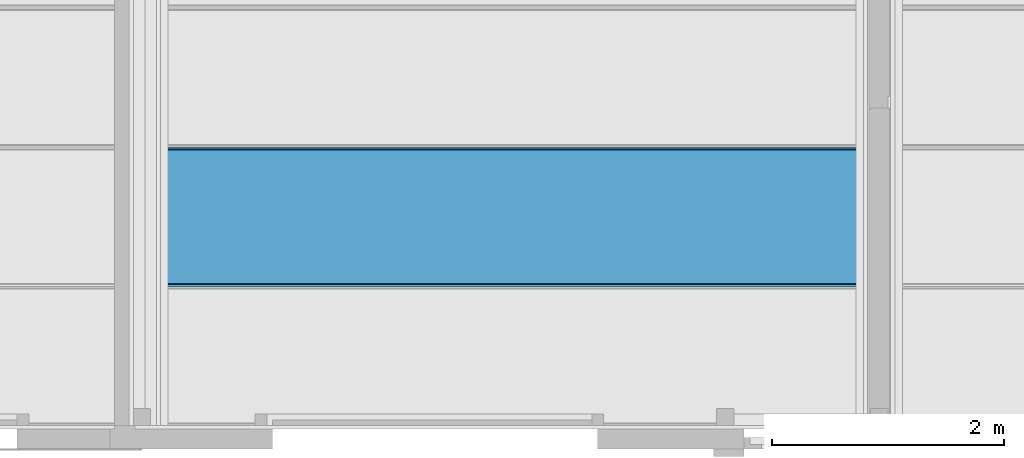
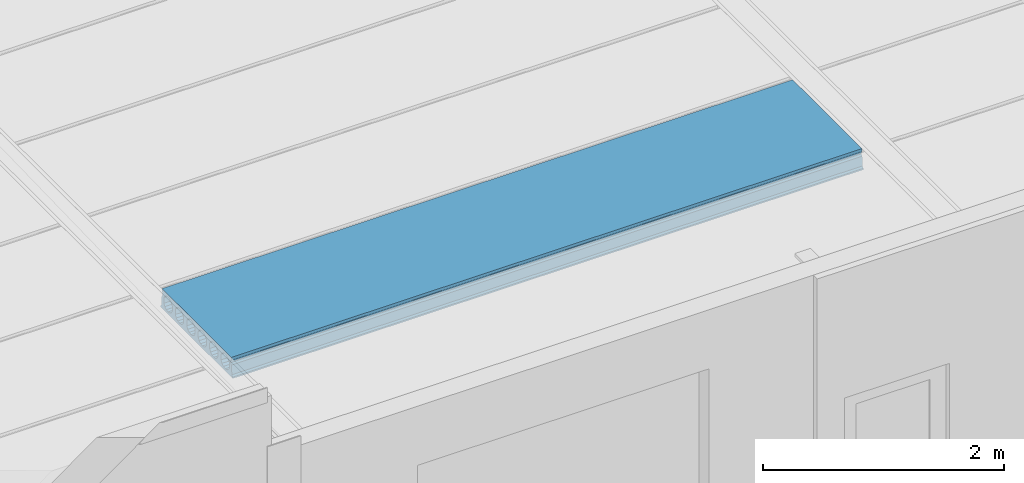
# One storey, part 7 of 45: 1 beam.
"""IFC2X3 building model written with IfcOpenShell, lengths in millimetres."""

from ifc_helpers import new_model, entity, si_unit, converted_unit, frame, origin, place, context, subcontext, project, spatial, faceted_brep, material, element, save


model = new_model("IFC2X3")

# Units and contexts
model_context = context("Model", 3, precision=1e-05, world=origin())
plan_context = context("Plan", 3, precision=1e-05, world=origin())
body_context = subcontext(model_context, "Body", "Model", "MODEL_VIEW")
ifc_project = project(units=[si_unit("LENGTHUNIT", "METRE", prefix="MILLI"), converted_unit("PLANEANGLEUNIT", "DEGREE", entity("IfcPlaneAngleMeasure", 0.0174532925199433), si_unit("PLANEANGLEUNIT", "RADIAN"), dimensions=[0, 0, 0, 0, 0, 0, 0]), si_unit("AREAUNIT", "SQUARE_METRE"), si_unit("VOLUMEUNIT", "CUBIC_METRE")], contexts=[model_context, plan_context])

# Building, storey
building_placement = place(None, origin())
building = spatial("IfcBuilding", under=ifc_project, at=building_placement, Name="HEKF Administrasjonbygg", CompositionType="ELEMENT")
storey_placement = place(building_placement, frame((0.0, 0.0, 6500.0), z_axis=(0.0, 0.0, 1.0), x_axis=(1.0, 0.0, 0.0)))
storey = spatial("IfcBuildingStorey", under=building, at=storey_placement, Name="Plan 1", CompositionType="ELEMENT", Elevation=6500.0)

# Beam
ifc_material = material()
beam_placement = place(storey_placement, frame((0.0, 0.0, -6500.0), z_axis=(0.0, 0.0, 1.0), x_axis=(1.0, 0.0, 0.0)))
element("IfcBeam", 1, at=beam_placement, inside=storey, material=ifc_material, context=body_context, shape_type="Brep", body=[
    faceted_brep([(10135.0, -9599.999999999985, 9684.999999), (10135.0, -9599.999999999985, 9670.0), (16189.99999999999, -9600.0, 9670.000000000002), (16189.99999999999, -9600.0, 9684.999999), (10135.0, -10799.99999999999, 9684.999999), (10135.0, -10799.99999999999, 9670.0), (10135.0, -9599.999999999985, 9670.0), (10135.0, -9599.999999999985, 9684.999999), (10135.0, -9614.99987952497, 9699.999998), (10135.0, -9620.000002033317, 9794.999985), (10135.0, -9635.000003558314, 9809.999985), (10135.0, -9635.000003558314, 9829.999985), (10135.0, -9622.727297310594, 9842.272583), (10135.0, -9624.047732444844, 9870.0), (10135.0, -10775.95237255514, 9870.0), (10135.0, -10777.27272968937, 9842.272735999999), (10135.0, -10765.00000044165, 9829.999985), (10135.0, -10765.00000044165, 9809.999985), (10135.0, -10780.00000196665, 9794.999985), (10135.0, -10784.99999947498, 9699.999998), (10135.0, -10674.99998729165, 9694.999989), (10135.0, -10703.70126120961, 9700.709023), (10135.0, -10728.03302068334, 9716.966995), (10135.0, -10744.29096433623, 9741.298752), (10135.0, -10744.29096033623, 9798.701262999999), (10135.0, -10728.03299768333, 9823.03299), (10135.0, -10703.70124620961, 9839.290955), (10135.0, -10674.99998729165, 9845.0), (10135.0, -10646.29872137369, 9839.290955), (10135.0, -10621.96697689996, 9823.033005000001), (10135.0, -10605.70901024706, 9798.701233), (10135.0, -10605.70898024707, 9741.298767), (10135.0, -10621.96696189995, 9716.966995), (10135.0, -10646.29870537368, 9700.709023), (10135.0, -10484.99996797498, 9694.999989), (10135.0, -10513.70124189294, 9700.709023), (10135.0, -10538.03300136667, 9716.966995), (10135.0, -10554.29094501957, 9741.298752), (10135.0, -10554.29094101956, 9798.701262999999), (10135.0, -10538.03297836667, 9823.03299), (10135.0, -10513.70122689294, 9839.290955), (10135.0, -10484.99996797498, 9845.0), (10135.0, -10456.29870205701, 9839.290955), (10135.0, -10431.9669575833, 9823.033005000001), (10135.0, -10415.7089909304, 9798.701233), (10135.0, -10415.7089609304, 9741.298767), (10135.0, -10431.96694258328, 9716.966995), (10135.0, -10456.29868605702, 9700.709023), (10135.0, -10294.99994865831, 9694.999989), (10135.0, -10323.70122257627, 9700.709023), (10135.0, -10348.03298205, 9716.966995), (10135.0, -10364.2909257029, 9741.298752), (10135.0, -10364.29092170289, 9798.701262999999), (10135.0, -10348.03295905, 9823.03299), (10135.0, -10323.70120757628, 9839.290955), (10135.0, -10294.99994865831, 9845.0), (10135.0, -10266.29868274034, 9839.290955), (10135.0, -10241.96693826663, 9823.033005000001), (10135.0, -10225.70897161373, 9798.701233), (10135.0, -10225.70894161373, 9741.298767), (10135.0, -10241.96692326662, 9716.966995), (10135.0, -10266.29866674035, 9700.709023), (10135.0, -10104.99992934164, 9694.999989), (10135.0, -10133.7012032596, 9700.709023), (10135.0, -10158.03296273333, 9716.966995), (10135.0, -10174.29090638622, 9741.298752), (10135.0, -10174.29090238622, 9798.701262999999), (10135.0, -10158.03293973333, 9823.03299), (10135.0, -10133.70118825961, 9839.290955), (10135.0, -10104.99992934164, 9845.0), (10135.0, -10076.29866342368, 9839.290955), (10135.0, -10051.96691894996, 9823.033005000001), (10135.0, -10035.70895229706, 9798.701233), (10135.0, -10035.70892229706, 9741.298767), (10135.0, -10051.96690394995, 9716.966995), (10135.0, -10076.29864742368, 9700.709023), (10135.0, -9914.999910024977, 9694.999989), (10135.0, -9943.701183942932, 9700.709023), (10135.0, -9968.032943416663, 9716.966995), (10135.0, -9984.290887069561, 9741.298752), (10135.0, -9984.29088306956, 9798.701262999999), (10135.0, -9968.032920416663, 9823.03299), (10135.0, -9943.701168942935, 9839.290955), (10135.0, -9914.999910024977, 9845.0), (10135.0, -9886.29864410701, 9839.290955), (10135.0, -9861.966899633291, 9823.033005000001), (10135.0, -9845.708932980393, 9798.701233), (10135.0, -9845.70890298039, 9741.298767), (10135.0, -9861.966884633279, 9716.966995), (10135.0, -9886.298628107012, 9700.709023), (10135.0, -9724.999890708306, 9694.999989), (10135.0, -9753.701164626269, 9700.709023), (10135.0, -9778.032924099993, 9716.966995), (10135.0, -9794.29086775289, 9741.298752), (10135.0, -9794.290863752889, 9798.701262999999), (10135.0, -9778.032901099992, 9823.03299), (10135.0, -9753.701149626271, 9839.290955), (10135.0, -9724.999890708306, 9845.0), (10135.0, -9696.298624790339, 9839.290955), (10135.0, -9671.96688031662, 9823.033005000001), (10135.0, -9655.708913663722, 9798.701233), (10135.0, -9655.708883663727, 9741.298767), (10135.0, -9671.966865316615, 9716.966995), (10135.0, -9696.298608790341, 9700.709023), (16190.0, -10800.0, 9684.999999), (16190.0, -10800.0, 9670.0), (10135.0, -10799.99999999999, 9670.0), (10135.0, -10799.99999999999, 9684.999999), (16189.99999999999, -9600.0, 9684.999999), (16189.99999999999, -9600.0, 9670.000000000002), (16190.0, -10800.0, 9670.0), (16190.0, -10800.0, 9684.999999), (16190.0, -10784.999999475, 9699.999998), (16190.0, -10780.00000196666, 9794.999985), (16190.0, -10765.00000044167, 9809.999985), (16190.0, -10765.00000044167, 9829.999985), (16190.0, -10777.27272968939, 9842.272735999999), (16190.0, -10775.95237255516, 9870.0), (16190.0, -9624.047732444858, 9870.0), (16190.0, -9622.727297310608, 9842.272583), (16190.0, -9635.000003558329, 9829.999985), (16190.0, -9635.000003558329, 9809.999985), (16190.0, -9620.000002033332, 9794.999985), (16190.0, -9614.999879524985, 9699.999998), (16190.0, -9724.99989070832, 9694.999989), (16190.0, -9696.298608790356, 9700.709023), (16190.0, -9671.96686531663, 9716.966995), (16190.0, -9655.708883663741, 9741.298767), (16190.0, -9655.708913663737, 9798.701233), (16190.0, -9671.966880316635, 9823.033005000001), (16190.0, -9696.298624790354, 9839.290955), (16190.0, -9724.99989070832, 9845.0), (16190.0, -9753.701149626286, 9839.290955), (16190.0, -9778.032901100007, 9823.03299), (16190.0, -9794.290863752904, 9798.701262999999), (16190.0, -9794.290867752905, 9741.298752), (16190.0, -9778.032924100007, 9716.966995), (16190.0, -9753.701164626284, 9700.709023), (16190.0, -9914.999910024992, 9694.999989), (16190.0, -9886.298628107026, 9700.709023), (16190.0, -9861.966884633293, 9716.966995), (16190.0, -9845.708902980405, 9741.298767), (16190.0, -9845.708932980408, 9798.701233), (16190.0, -9861.966899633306, 9823.033005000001), (16190.0, -9886.298644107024, 9839.290955), (16190.0, -9914.999910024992, 9845.0), (16190.0, -9943.70116894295, 9839.290955), (16190.0, -9968.032920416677, 9823.03299), (16190.0, -9984.290883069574, 9798.701262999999), (16190.0, -9984.290887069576, 9741.298752), (16190.0, -9968.032943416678, 9716.966995), (16190.0, -9943.701183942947, 9700.709023), (16190.0, -10104.99992934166, 9694.999989), (16190.0, -10076.29864742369, 9700.709023), (16190.0, -10051.96690394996, 9716.966995), (16190.0, -10035.70892229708, 9741.298767), (16190.0, -10035.70895229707, 9798.701233), (16190.0, -10051.96691894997, 9823.033005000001), (16190.0, -10076.2986634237, 9839.290955), (16190.0, -10104.99992934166, 9845.0), (16190.0, -10133.70118825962, 9839.290955), (16190.0, -10158.03293973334, 9823.03299), (16190.0, -10174.29090238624, 9798.701262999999), (16190.0, -10174.29090638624, 9741.298752), (16190.0, -10158.03296273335, 9716.966995), (16190.0, -10133.70120325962, 9700.709023), (16190.0, -10294.99994865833, 9694.999989), (16190.0, -10266.29866674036, 9700.709023), (16190.0, -10241.96692326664, 9716.966995), (16190.0, -10225.70894161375, 9741.298767), (16190.0, -10225.70897161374, 9798.701233), (16190.0, -10241.96693826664, 9823.033005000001), (16190.0, -10266.29868274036, 9839.290955), (16190.0, -10294.99994865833, 9845.0), (16190.0, -10323.70120757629, 9839.290955), (16190.0, -10348.03295905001, 9823.03299), (16190.0, -10364.29092170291, 9798.701262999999), (16190.0, -10364.29092570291, 9741.298752), (16190.0, -10348.03298205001, 9716.966995), (16190.0, -10323.70122257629, 9700.709023), (16190.0, -10484.999967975, 9694.999989), (16190.0, -10456.29868605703, 9700.709023), (16190.0, -10431.9669425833, 9716.966995), (16190.0, -10415.70896093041, 9741.298767), (16190.0, -10415.70899093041, 9798.701233), (16190.0, -10431.96695758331, 9823.033005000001), (16190.0, -10456.29870205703, 9839.290955), (16190.0, -10484.999967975, 9845.0), (16190.0, -10513.70122689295, 9839.290955), (16190.0, -10538.03297836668, 9823.03299), (16190.0, -10554.29094101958, 9798.701262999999), (16190.0, -10554.29094501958, 9741.298752), (16190.0, -10538.03300136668, 9716.966995), (16190.0, -10513.70124189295, 9700.709023), (16190.0, -10674.99998729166, 9694.999989), (16190.0, -10646.29870537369, 9700.709023), (16190.0, -10621.96696189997, 9716.966995), (16190.0, -10605.70898024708, 9741.298767), (16190.0, -10605.70901024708, 9798.701233), (16190.0, -10621.96697689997, 9823.033005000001), (16190.0, -10646.2987213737, 9839.290955), (16190.0, -10674.99998729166, 9845.0), (16190.0, -10703.70124620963, 9839.290955), (16190.0, -10728.03299768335, 9823.03299), (16190.0, -10744.29096033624, 9798.701262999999), (16190.0, -10744.29096433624, 9741.298752), (16190.0, -10728.03302068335, 9716.966995), (16190.0, -10703.70126120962, 9700.709023), (10135.0, -10799.99999999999, 9684.999999), (10135.0, -10784.99999947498, 9699.999998), (16190.0, -10784.999999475, 9699.999998), (16190.0, -10800.0, 9684.999999), (10135.0, -10784.99999947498, 9699.999998), (10135.0, -10780.00000196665, 9794.999985), (16190.0, -10780.00000196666, 9794.999985), (16190.0, -10784.999999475, 9699.999998), (10135.0, -10780.00000196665, 9794.999985), (10135.0, -10765.00000044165, 9809.999985), (16190.0, -10765.00000044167, 9809.999985), (16190.0, -10780.00000196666, 9794.999985), (10135.0, -10765.00000044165, 9809.999985), (10135.0, -10765.00000044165, 9829.999985), (16190.0, -10765.00000044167, 9829.999985), (16190.0, -10765.00000044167, 9809.999985), (10135.0, -10765.00000044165, 9829.999985), (10135.0, -10777.27272968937, 9842.272735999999), (16190.0, -10777.27272968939, 9842.272735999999), (16190.0, -10765.00000044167, 9829.999985), (10135.0, -10777.27272968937, 9842.272735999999), (10135.0, -10775.95237255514, 9870.0), (16190.0, -10775.95237255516, 9870.0), (16190.0, -10777.27272968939, 9842.272735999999), (10135.0, -10775.95237255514, 9870.0), (10135.0, -9624.047732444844, 9870.0), (16190.0, -9624.047732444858, 9870.0), (16190.0, -10775.95237255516, 9870.0), (10135.0, -9624.047732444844, 9870.0), (10135.0, -9622.727297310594, 9842.272583), (16190.0, -9622.727297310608, 9842.272583), (16190.0, -9624.047732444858, 9870.0), (10135.0, -9622.727297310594, 9842.272583), (10135.0, -9635.000003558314, 9829.999985), (16190.0, -9635.000003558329, 9829.999985), (16190.0, -9622.727297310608, 9842.272583), (10135.0, -9635.000003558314, 9829.999985), (10135.0, -9635.000003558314, 9809.999985), (16190.0, -9635.000003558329, 9809.999985), (16190.0, -9635.000003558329, 9829.999985), (10135.0, -9635.000003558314, 9809.999985), (10135.0, -9620.000002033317, 9794.999985), (16190.0, -9620.000002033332, 9794.999985), (16190.0, -9635.000003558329, 9809.999985), (10135.0, -9620.000002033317, 9794.999985), (10135.0, -9614.99987952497, 9699.999998), (16190.0, -9614.999879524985, 9699.999998), (16190.0, -9620.000002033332, 9794.999985), (10135.0, -9614.99987952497, 9699.999998), (10135.0, -9599.999999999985, 9684.999999), (16189.99999999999, -9600.0, 9684.999999), (16190.0, -9614.999879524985, 9699.999998), (10135.0, -9599.999999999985, 9670.0), (10135.0, -10799.99999999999, 9670.0), (16190.0, -10800.0, 9670.0), (16189.99999999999, -9600.0, 9670.000000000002), (10135.0, -9724.999890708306, 9694.999989), (10135.0, -9696.298608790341, 9700.709023), (16190.0, -9696.298608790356, 9700.709023), (16190.0, -9724.99989070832, 9694.999989), (10135.0, -9696.298608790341, 9700.709023), (10135.0, -9671.966865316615, 9716.966995), (16190.0, -9671.96686531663, 9716.966995), (16190.0, -9696.298608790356, 9700.709023), (10135.0, -9671.966865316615, 9716.966995), (10135.0, -9655.708883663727, 9741.298767), (16190.0, -9655.708883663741, 9741.298767), (16190.0, -9671.96686531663, 9716.966995), (10135.0, -9655.708883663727, 9741.298767), (10135.0, -9655.708913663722, 9798.701233), (16190.0, -9655.708913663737, 9798.701233), (16190.0, -9655.708883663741, 9741.298767), (10135.0, -9655.708913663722, 9798.701233), (10135.0, -9671.96688031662, 9823.033005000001), (16190.0, -9671.966880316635, 9823.033005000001), (16190.0, -9655.708913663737, 9798.701233), (10135.0, -9671.96688031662, 9823.033005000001), (10135.0, -9696.298624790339, 9839.290955), (16190.0, -9696.298624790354, 9839.290955), (16190.0, -9671.966880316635, 9823.033005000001), (10135.0, -9696.298624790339, 9839.290955), (10135.0, -9724.999890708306, 9845.0), (16190.0, -9724.99989070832, 9845.0), (16190.0, -9696.298624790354, 9839.290955), (10135.0, -9724.999890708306, 9845.0), (10135.0, -9753.701149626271, 9839.290955), (16190.0, -9753.701149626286, 9839.290955), (16190.0, -9724.99989070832, 9845.0), (10135.0, -9753.701149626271, 9839.290955), (10135.0, -9778.032901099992, 9823.03299), (16190.0, -9778.032901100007, 9823.03299), (16190.0, -9753.701149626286, 9839.290955), (10135.0, -9778.032901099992, 9823.03299), (10135.0, -9794.290863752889, 9798.701262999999), (16190.0, -9794.290863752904, 9798.701262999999), (16190.0, -9778.032901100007, 9823.03299), (10135.0, -9794.290863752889, 9798.701262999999), (10135.0, -9794.29086775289, 9741.298752), (16190.0, -9794.290867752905, 9741.298752), (16190.0, -9794.290863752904, 9798.701262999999), (10135.0, -9794.29086775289, 9741.298752), (10135.0, -9778.032924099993, 9716.966995), (16190.0, -9778.032924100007, 9716.966995), (16190.0, -9794.290867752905, 9741.298752), (10135.0, -9778.032924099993, 9716.966995), (10135.0, -9753.701164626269, 9700.709023), (16190.0, -9753.701164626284, 9700.709023), (16190.0, -9778.032924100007, 9716.966995), (10135.0, -9753.701164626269, 9700.709023), (10135.0, -9724.999890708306, 9694.999989), (16190.0, -9724.99989070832, 9694.999989), (16190.0, -9753.701164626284, 9700.709023), (10135.0, -9914.999910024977, 9694.999989), (10135.0, -9886.298628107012, 9700.709023), (16190.0, -9886.298628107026, 9700.709023), (16190.0, -9914.999910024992, 9694.999989), (10135.0, -9886.298628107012, 9700.709023), (10135.0, -9861.966884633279, 9716.966995), (16190.0, -9861.966884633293, 9716.966995), (16190.0, -9886.298628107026, 9700.709023), (10135.0, -9861.966884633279, 9716.966995), (10135.0, -9845.70890298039, 9741.298767), (16190.0, -9845.708902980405, 9741.298767), (16190.0, -9861.966884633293, 9716.966995), (10135.0, -9845.70890298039, 9741.298767), (10135.0, -9845.708932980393, 9798.701233), (16190.0, -9845.708932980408, 9798.701233), (16190.0, -9845.708902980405, 9741.298767), (10135.0, -9845.708932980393, 9798.701233), (10135.0, -9861.966899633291, 9823.033005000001), (16190.0, -9861.966899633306, 9823.033005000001), (16190.0, -9845.708932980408, 9798.701233), (10135.0, -9861.966899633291, 9823.033005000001), (10135.0, -9886.29864410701, 9839.290955), (16190.0, -9886.298644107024, 9839.290955), (16190.0, -9861.966899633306, 9823.033005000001), (10135.0, -9886.29864410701, 9839.290955), (10135.0, -9914.999910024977, 9845.0), (16190.0, -9914.999910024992, 9845.0), (16190.0, -9886.298644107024, 9839.290955), (10135.0, -9914.999910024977, 9845.0), (10135.0, -9943.701168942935, 9839.290955), (16190.0, -9943.70116894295, 9839.290955), (16190.0, -9914.999910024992, 9845.0), (10135.0, -9943.701168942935, 9839.290955), (10135.0, -9968.032920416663, 9823.03299), (16190.0, -9968.032920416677, 9823.03299), (16190.0, -9943.70116894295, 9839.290955), (10135.0, -9968.032920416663, 9823.03299), (10135.0, -9984.29088306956, 9798.701262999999), (16190.0, -9984.290883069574, 9798.701262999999), (16190.0, -9968.032920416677, 9823.03299), (10135.0, -9984.29088306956, 9798.701262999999), (10135.0, -9984.290887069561, 9741.298752), (16190.0, -9984.290887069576, 9741.298752), (16190.0, -9984.290883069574, 9798.701262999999), (10135.0, -9984.290887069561, 9741.298752), (10135.0, -9968.032943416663, 9716.966995), (16190.0, -9968.032943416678, 9716.966995), (16190.0, -9984.290887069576, 9741.298752), (10135.0, -9968.032943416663, 9716.966995), (10135.0, -9943.701183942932, 9700.709023), (16190.0, -9943.701183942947, 9700.709023), (16190.0, -9968.032943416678, 9716.966995), (10135.0, -9943.701183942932, 9700.709023), (10135.0, -9914.999910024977, 9694.999989), (16190.0, -9914.999910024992, 9694.999989), (16190.0, -9943.701183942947, 9700.709023), (10135.0, -10104.99992934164, 9694.999989), (10135.0, -10076.29864742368, 9700.709023), (16190.0, -10076.29864742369, 9700.709023), (16190.0, -10104.99992934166, 9694.999989), (10135.0, -10076.29864742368, 9700.709023), (10135.0, -10051.96690394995, 9716.966995), (16190.0, -10051.96690394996, 9716.966995), (16190.0, -10076.29864742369, 9700.709023), (10135.0, -10051.96690394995, 9716.966995), (10135.0, -10035.70892229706, 9741.298767), (16190.0, -10035.70892229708, 9741.298767), (16190.0, -10051.96690394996, 9716.966995), (10135.0, -10035.70892229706, 9741.298767), (10135.0, -10035.70895229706, 9798.701233), (16190.0, -10035.70895229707, 9798.701233), (16190.0, -10035.70892229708, 9741.298767), (10135.0, -10035.70895229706, 9798.701233), (10135.0, -10051.96691894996, 9823.033005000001), (16190.0, -10051.96691894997, 9823.033005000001), (16190.0, -10035.70895229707, 9798.701233), (10135.0, -10051.96691894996, 9823.033005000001), (10135.0, -10076.29866342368, 9839.290955), (16190.0, -10076.2986634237, 9839.290955), (16190.0, -10051.96691894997, 9823.033005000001), (10135.0, -10076.29866342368, 9839.290955), (10135.0, -10104.99992934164, 9845.0), (16190.0, -10104.99992934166, 9845.0), (16190.0, -10076.2986634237, 9839.290955), (10135.0, -10104.99992934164, 9845.0), (10135.0, -10133.70118825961, 9839.290955), (16190.0, -10133.70118825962, 9839.290955), (16190.0, -10104.99992934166, 9845.0), (10135.0, -10133.70118825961, 9839.290955), (10135.0, -10158.03293973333, 9823.03299), (16190.0, -10158.03293973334, 9823.03299), (16190.0, -10133.70118825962, 9839.290955), (10135.0, -10158.03293973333, 9823.03299), (10135.0, -10174.29090238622, 9798.701262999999), (16190.0, -10174.29090238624, 9798.701262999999), (16190.0, -10158.03293973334, 9823.03299), (10135.0, -10174.29090238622, 9798.701262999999), (10135.0, -10174.29090638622, 9741.298752), (16190.0, -10174.29090638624, 9741.298752), (16190.0, -10174.29090238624, 9798.701262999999), (10135.0, -10174.29090638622, 9741.298752), (10135.0, -10158.03296273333, 9716.966995), (16190.0, -10158.03296273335, 9716.966995), (16190.0, -10174.29090638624, 9741.298752), (10135.0, -10158.03296273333, 9716.966995), (10135.0, -10133.7012032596, 9700.709023), (16190.0, -10133.70120325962, 9700.709023), (16190.0, -10158.03296273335, 9716.966995), (10135.0, -10133.7012032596, 9700.709023), (10135.0, -10104.99992934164, 9694.999989), (16190.0, -10104.99992934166, 9694.999989), (16190.0, -10133.70120325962, 9700.709023), (10135.0, -10294.99994865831, 9694.999989), (10135.0, -10266.29866674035, 9700.709023), (16190.0, -10266.29866674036, 9700.709023), (16190.0, -10294.99994865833, 9694.999989), (10135.0, -10266.29866674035, 9700.709023), (10135.0, -10241.96692326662, 9716.966995), (16190.0, -10241.96692326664, 9716.966995), (16190.0, -10266.29866674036, 9700.709023), (10135.0, -10241.96692326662, 9716.966995), (10135.0, -10225.70894161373, 9741.298767), (16190.0, -10225.70894161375, 9741.298767), (16190.0, -10241.96692326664, 9716.966995), (10135.0, -10225.70894161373, 9741.298767), (10135.0, -10225.70897161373, 9798.701233), (16190.0, -10225.70897161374, 9798.701233), (16190.0, -10225.70894161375, 9741.298767), (10135.0, -10225.70897161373, 9798.701233), (10135.0, -10241.96693826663, 9823.033005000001), (16190.0, -10241.96693826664, 9823.033005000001), (16190.0, -10225.70897161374, 9798.701233), (10135.0, -10241.96693826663, 9823.033005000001), (10135.0, -10266.29868274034, 9839.290955), (16190.0, -10266.29868274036, 9839.290955), (16190.0, -10241.96693826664, 9823.033005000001), (10135.0, -10266.29868274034, 9839.290955), (10135.0, -10294.99994865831, 9845.0), (16190.0, -10294.99994865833, 9845.0), (16190.0, -10266.29868274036, 9839.290955), (10135.0, -10294.99994865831, 9845.0), (10135.0, -10323.70120757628, 9839.290955), (16190.0, -10323.70120757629, 9839.290955), (16190.0, -10294.99994865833, 9845.0), (10135.0, -10323.70120757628, 9839.290955), (10135.0, -10348.03295905, 9823.03299), (16190.0, -10348.03295905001, 9823.03299), (16190.0, -10323.70120757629, 9839.290955), (10135.0, -10348.03295905, 9823.03299), (10135.0, -10364.29092170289, 9798.701262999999), (16190.0, -10364.29092170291, 9798.701262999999), (16190.0, -10348.03295905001, 9823.03299), (10135.0, -10364.29092170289, 9798.701262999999), (10135.0, -10364.2909257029, 9741.298752), (16190.0, -10364.29092570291, 9741.298752), (16190.0, -10364.29092170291, 9798.701262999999), (10135.0, -10364.2909257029, 9741.298752), (10135.0, -10348.03298205, 9716.966995), (16190.0, -10348.03298205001, 9716.966995), (16190.0, -10364.29092570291, 9741.298752), (10135.0, -10348.03298205, 9716.966995), (10135.0, -10323.70122257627, 9700.709023), (16190.0, -10323.70122257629, 9700.709023), (16190.0, -10348.03298205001, 9716.966995), (10135.0, -10323.70122257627, 9700.709023), (10135.0, -10294.99994865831, 9694.999989), (16190.0, -10294.99994865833, 9694.999989), (16190.0, -10323.70122257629, 9700.709023), (10135.0, -10484.99996797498, 9694.999989), (10135.0, -10456.29868605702, 9700.709023), (16190.0, -10456.29868605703, 9700.709023), (16190.0, -10484.999967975, 9694.999989), (10135.0, -10456.29868605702, 9700.709023), (10135.0, -10431.96694258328, 9716.966995), (16190.0, -10431.9669425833, 9716.966995), (16190.0, -10456.29868605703, 9700.709023), (10135.0, -10431.96694258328, 9716.966995), (10135.0, -10415.7089609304, 9741.298767), (16190.0, -10415.70896093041, 9741.298767), (16190.0, -10431.9669425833, 9716.966995), (10135.0, -10415.7089609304, 9741.298767), (10135.0, -10415.7089909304, 9798.701233), (16190.0, -10415.70899093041, 9798.701233), (16190.0, -10415.70896093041, 9741.298767), (10135.0, -10415.7089909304, 9798.701233), (10135.0, -10431.9669575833, 9823.033005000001), (16190.0, -10431.96695758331, 9823.033005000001), (16190.0, -10415.70899093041, 9798.701233), (10135.0, -10431.9669575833, 9823.033005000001), (10135.0, -10456.29870205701, 9839.290955), (16190.0, -10456.29870205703, 9839.290955), (16190.0, -10431.96695758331, 9823.033005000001), (10135.0, -10456.29870205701, 9839.290955), (10135.0, -10484.99996797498, 9845.0), (16190.0, -10484.999967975, 9845.0), (16190.0, -10456.29870205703, 9839.290955), (10135.0, -10484.99996797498, 9845.0), (10135.0, -10513.70122689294, 9839.290955), (16190.0, -10513.70122689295, 9839.290955), (16190.0, -10484.999967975, 9845.0), (10135.0, -10513.70122689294, 9839.290955), (10135.0, -10538.03297836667, 9823.03299), (16190.0, -10538.03297836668, 9823.03299), (16190.0, -10513.70122689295, 9839.290955), (10135.0, -10538.03297836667, 9823.03299), (10135.0, -10554.29094101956, 9798.701262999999), (16190.0, -10554.29094101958, 9798.701262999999), (16190.0, -10538.03297836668, 9823.03299), (10135.0, -10554.29094101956, 9798.701262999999), (10135.0, -10554.29094501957, 9741.298752), (16190.0, -10554.29094501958, 9741.298752), (16190.0, -10554.29094101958, 9798.701262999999), (10135.0, -10554.29094501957, 9741.298752), (10135.0, -10538.03300136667, 9716.966995), (16190.0, -10538.03300136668, 9716.966995), (16190.0, -10554.29094501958, 9741.298752), (10135.0, -10538.03300136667, 9716.966995), (10135.0, -10513.70124189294, 9700.709023), (16190.0, -10513.70124189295, 9700.709023), (16190.0, -10538.03300136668, 9716.966995), (10135.0, -10513.70124189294, 9700.709023), (10135.0, -10484.99996797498, 9694.999989), (16190.0, -10484.999967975, 9694.999989), (16190.0, -10513.70124189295, 9700.709023), (10135.0, -10674.99998729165, 9694.999989), (10135.0, -10646.29870537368, 9700.709023), (16190.0, -10646.29870537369, 9700.709023), (16190.0, -10674.99998729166, 9694.999989), (10135.0, -10646.29870537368, 9700.709023), (10135.0, -10621.96696189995, 9716.966995), (16190.0, -10621.96696189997, 9716.966995), (16190.0, -10646.29870537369, 9700.709023), (10135.0, -10621.96696189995, 9716.966995), (10135.0, -10605.70898024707, 9741.298767), (16190.0, -10605.70898024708, 9741.298767), (16190.0, -10621.96696189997, 9716.966995), (10135.0, -10605.70898024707, 9741.298767), (10135.0, -10605.70901024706, 9798.701233), (16190.0, -10605.70901024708, 9798.701233), (16190.0, -10605.70898024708, 9741.298767), (10135.0, -10605.70901024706, 9798.701233), (10135.0, -10621.96697689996, 9823.033005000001), (16190.0, -10621.96697689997, 9823.033005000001), (16190.0, -10605.70901024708, 9798.701233), (10135.0, -10621.96697689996, 9823.033005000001), (10135.0, -10646.29872137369, 9839.290955), (16190.0, -10646.2987213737, 9839.290955), (16190.0, -10621.96697689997, 9823.033005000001), (10135.0, -10646.29872137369, 9839.290955), (10135.0, -10674.99998729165, 9845.0), (16190.0, -10674.99998729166, 9845.0), (16190.0, -10646.2987213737, 9839.290955), (10135.0, -10674.99998729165, 9845.0), (10135.0, -10703.70124620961, 9839.290955), (16190.0, -10703.70124620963, 9839.290955), (16190.0, -10674.99998729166, 9845.0), (10135.0, -10703.70124620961, 9839.290955), (10135.0, -10728.03299768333, 9823.03299), (16190.0, -10728.03299768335, 9823.03299), (16190.0, -10703.70124620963, 9839.290955), (10135.0, -10728.03299768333, 9823.03299), (10135.0, -10744.29096033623, 9798.701262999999), (16190.0, -10744.29096033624, 9798.701262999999), (16190.0, -10728.03299768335, 9823.03299), (10135.0, -10744.29096033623, 9798.701262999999), (10135.0, -10744.29096433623, 9741.298752), (16190.0, -10744.29096433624, 9741.298752), (16190.0, -10744.29096033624, 9798.701262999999), (10135.0, -10744.29096433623, 9741.298752), (10135.0, -10728.03302068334, 9716.966995), (16190.0, -10728.03302068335, 9716.966995), (16190.0, -10744.29096433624, 9741.298752), (10135.0, -10728.03302068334, 9716.966995), (10135.0, -10703.70126120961, 9700.709023), (16190.0, -10703.70126120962, 9700.709023), (16190.0, -10728.03302068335, 9716.966995), (10135.0, -10703.70126120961, 9700.709023), (10135.0, -10674.99998729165, 9694.999989), (16190.0, -10674.99998729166, 9694.999989), (16190.0, -10703.70126120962, 9700.709023)], [[[0, 1, 2, 3]], [[4, 5, 6, 7, 8, 9, 10, 11, 12, 13, 14, 15, 16, 17, 18, 19], [20, 21, 22, 23, 24, 25, 26, 27, 28, 29, 30, 31, 32, 33], [34, 35, 36, 37, 38, 39, 40, 41, 42, 43, 44, 45, 46, 47], [48, 49, 50, 51, 52, 53, 54, 55, 56, 57, 58, 59, 60, 61], [62, 63, 64, 65, 66, 67, 68, 69, 70, 71, 72, 73, 74, 75], [76, 77, 78, 79, 80, 81, 82, 83, 84, 85, 86, 87, 88, 89], [90, 91, 92, 93, 94, 95, 96, 97, 98, 99, 100, 101, 102, 103]], [[104, 105, 106, 107]], [[108, 109, 110, 111, 112, 113, 114, 115, 116, 117, 118, 119, 120, 121, 122, 123], [124, 125, 126, 127, 128, 129, 130, 131, 132, 133, 134, 135, 136, 137], [138, 139, 140, 141, 142, 143, 144, 145, 146, 147, 148, 149, 150, 151], [152, 153, 154, 155, 156, 157, 158, 159, 160, 161, 162, 163, 164, 165], [166, 167, 168, 169, 170, 171, 172, 173, 174, 175, 176, 177, 178, 179], [180, 181, 182, 183, 184, 185, 186, 187, 188, 189, 190, 191, 192, 193], [194, 195, 196, 197, 198, 199, 200, 201, 202, 203, 204, 205, 206, 207]], [[208, 209, 210, 211]], [[212, 213, 214, 215]], [[216, 217, 218, 219]], [[220, 221, 222, 223]], [[224, 225, 226, 227]], [[228, 229, 230, 231]], [[232, 233, 234, 235]], [[236, 237, 238, 239]], [[240, 241, 242, 243]], [[244, 245, 246, 247]], [[248, 249, 250, 251]], [[252, 253, 254, 255]], [[256, 257, 258, 259]], [[260, 261, 262, 263]], [[264, 265, 266, 267]], [[268, 269, 270, 271]], [[272, 273, 274, 275]], [[276, 277, 278, 279]], [[280, 281, 282, 283]], [[284, 285, 286, 287]], [[288, 289, 290, 291]], [[292, 293, 294, 295]], [[296, 297, 298, 299]], [[300, 301, 302, 303]], [[304, 305, 306, 307]], [[308, 309, 310, 311]], [[312, 313, 314, 315]], [[316, 317, 318, 319]], [[320, 321, 322, 323]], [[324, 325, 326, 327]], [[328, 329, 330, 331]], [[332, 333, 334, 335]], [[336, 337, 338, 339]], [[340, 341, 342, 343]], [[344, 345, 346, 347]], [[348, 349, 350, 351]], [[352, 353, 354, 355]], [[356, 357, 358, 359]], [[360, 361, 362, 363]], [[364, 365, 366, 367]], [[368, 369, 370, 371]], [[372, 373, 374, 375]], [[376, 377, 378, 379]], [[380, 381, 382, 383]], [[384, 385, 386, 387]], [[388, 389, 390, 391]], [[392, 393, 394, 395]], [[396, 397, 398, 399]], [[400, 401, 402, 403]], [[404, 405, 406, 407]], [[408, 409, 410, 411]], [[412, 413, 414, 415]], [[416, 417, 418, 419]], [[420, 421, 422, 423]], [[424, 425, 426, 427]], [[428, 429, 430, 431]], [[432, 433, 434, 435]], [[436, 437, 438, 439]], [[440, 441, 442, 443]], [[444, 445, 446, 447]], [[448, 449, 450, 451]], [[452, 453, 454, 455]], [[456, 457, 458, 459]], [[460, 461, 462, 463]], [[464, 465, 466, 467]], [[468, 469, 470, 471]], [[472, 473, 474, 475]], [[476, 477, 478, 479]], [[480, 481, 482, 483]], [[484, 485, 486, 487]], [[488, 489, 490, 491]], [[492, 493, 494, 495]], [[496, 497, 498, 499]], [[500, 501, 502, 503]], [[504, 505, 506, 507]], [[508, 509, 510, 511]], [[512, 513, 514, 515]], [[516, 517, 518, 519]], [[520, 521, 522, 523]], [[524, 525, 526, 527]], [[528, 529, 530, 531]], [[532, 533, 534, 535]], [[536, 537, 538, 539]], [[540, 541, 542, 543]], [[544, 545, 546, 547]], [[548, 549, 550, 551]], [[552, 553, 554, 555]], [[556, 557, 558, 559]], [[560, 561, 562, 563]], [[564, 565, 566, 567]], [[568, 569, 570, 571]], [[572, 573, 574, 575]], [[576, 577, 578, 579]], [[580, 581, 582, 583]], [[584, 585, 586, 587]], [[588, 589, 590, 591]], [[592, 593, 594, 595]], [[596, 597, 598, 599]]], orient=[[False], [False, False, False, False, False, False, False], [False], [False, False, False, False, False, False, False], [False], [False], [False], [False], [False], [False], [False], [False], [False], [False], [False], [False], [False], [False], [False], [False], [False], [False], [False], [False], [False], [False], [False], [False], [False], [False], [False], [False], [False], [False], [False], [False], [False], [False], [False], [False], [False], [False], [False], [False], [False], [False], [False], [False], [False], [False], [False], [False], [False], [False], [False], [False], [False], [False], [False], [False], [False], [False], [False], [False], [False], [False], [False], [False], [False], [False], [False], [False], [False], [False], [False], [False], [False], [False], [False], [False], [False], [False], [False], [False], [False], [False], [False], [False], [False], [False], [False], [False], [False], [False], [False], [False], [False], [False], [False], [False], [False], [False]]),
])

save(model, "model.ifc")
